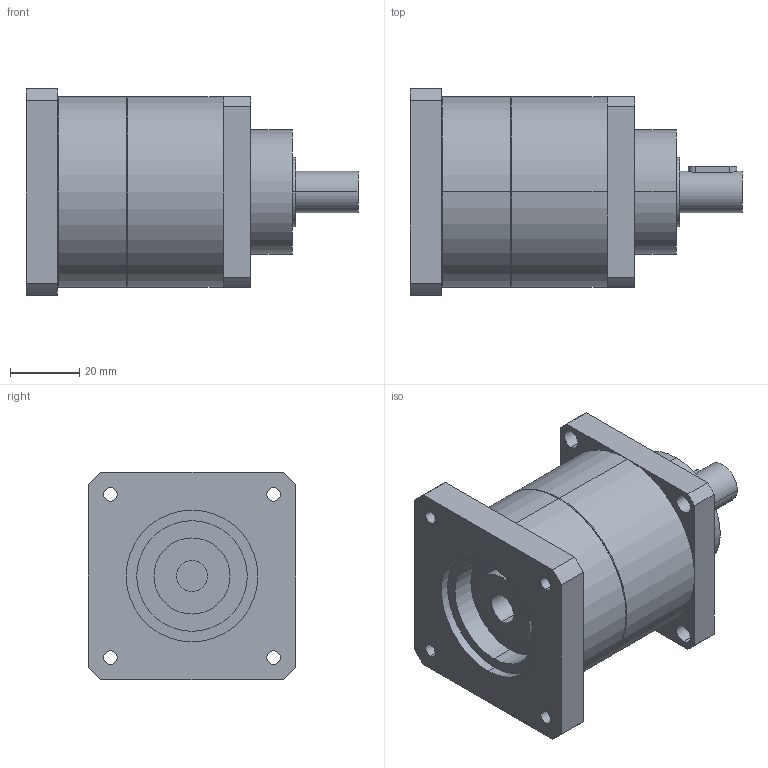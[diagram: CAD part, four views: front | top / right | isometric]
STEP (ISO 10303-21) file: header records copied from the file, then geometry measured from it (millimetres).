
FILE_DESCRIPTION(('CoCreate Modeling STEP Export'),'2;1');
FILE_NAME('GPT55_ig-3-4-5-7-10_12_B5A_9_P28.stp','2014-08-25T14:36:07',(''),(''),'CoCreate Modeling STEP processor for AP214 (Solid Model)','CoCreate Modeling 16.00C 25-Feb-2009 (C) Parametric Technology GmbH','');
FILE_SCHEMA(('AUTOMOTIVE_DESIGN { 1 0 10303 214 1 1 1 1 }'));
Length unit declared in the file: millimetre
Products named in the file (2): GPT55_ig-3-4-5-7-10_12_B5A_9_P28
Assembly tree (1 placements, depth 2):
  GPT55_ig-3-4-5-7-10_12_B5A_9_P28
    GPT55_ig-3-4-5-7-10_12_B5A_9_P28
Bounding box: 96 x 60 x 60 mm (x, y, z)
Volume: 175201.3 mm3; surface area: 25460.4 mm2
Topology: 1 solids, 1 shells, 77 faces, 204 edges, 139 vertices
Faces by surface type: cylinder 46, plane 27, cone 4
Entity records: 2515 total; most frequent: CARTESIAN_POINT 710, ORIENTED_EDGE 408, DIRECTION 318, EDGE_CURVE 204, VERTEX_POINT 139, AXIS2_PLACEMENT_3D 117, EDGE_LOOP 103, VECTOR 84
